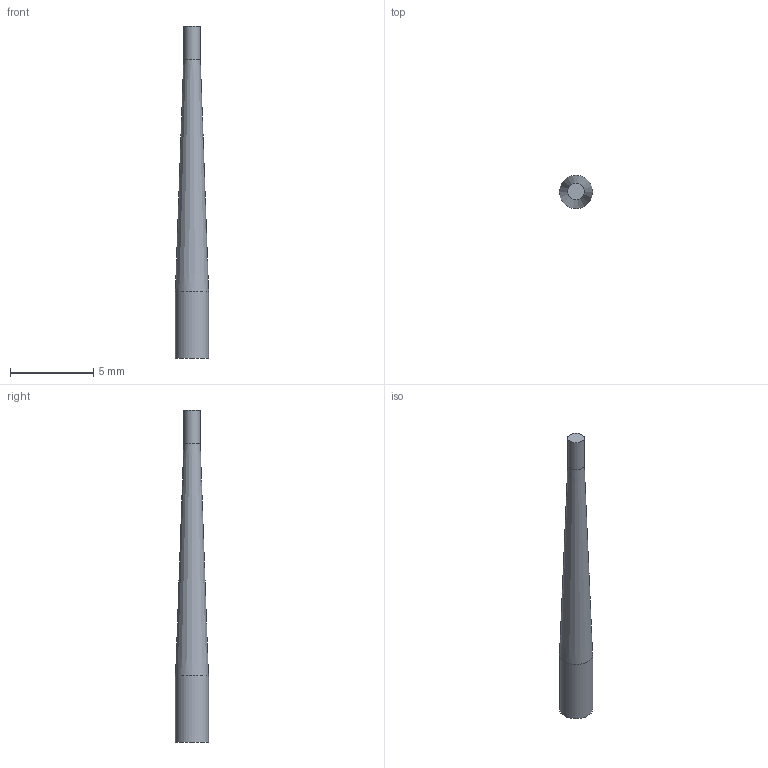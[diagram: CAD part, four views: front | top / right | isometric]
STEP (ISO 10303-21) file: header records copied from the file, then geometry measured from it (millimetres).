
FILE_DESCRIPTION(('Open CASCADE Model'),'2;1');
FILE_NAME('Open CASCADE Shape Model','2026-10-28T05:14:49',('Author'),( 'Open CASCADE'),'Open CASCADE STEP processor 7.8','Open CASCADE 7.8' ,'Unknown');
FILE_SCHEMA(('AUTOMOTIVE_DESIGN { 1 0 10303 214 1 1 1 1 }'));
Length unit declared in the file: millimetre
Products named in the file (1): Open CASCADE STEP translator 7.8 4
Bounding box: 2 x 2 x 20 mm (x, y, z)
Volume: 39.8 mm3; surface area: 101.4 mm2
Topology: 1 solids, 1 shells, 5 faces, 7 edges, 4 vertices
Faces by surface type: plane 2, cylinder 2, cone 1
Full cylindrical faces by diameter (mm): 1 x1, 2 x1
Entity records: 210 total; most frequent: DIRECTION 37, CARTESIAN_POINT 31, LINE 15, VECTOR 15, ORIENTED_EDGE 14, PCURVE 14, DEFINITIONAL_REPRESENTATION 14, AXIS2_PLACEMENT_3D 10
